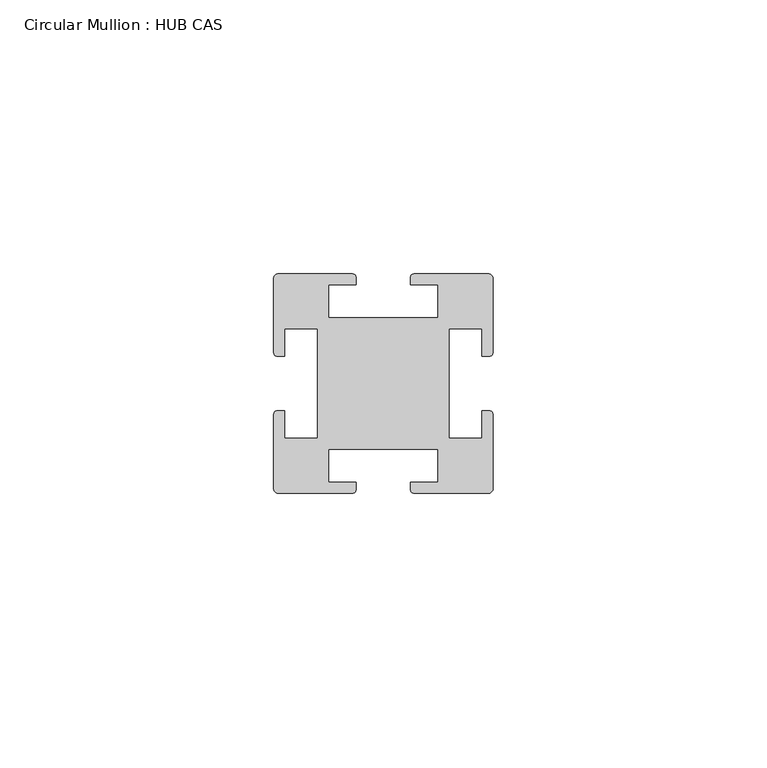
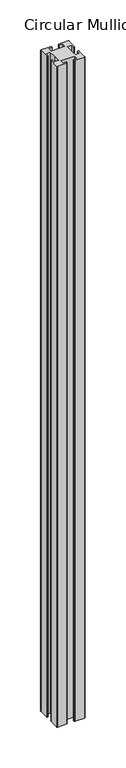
"""IFC4 building model written with IfcOpenShell, lengths in millimetres: member geometry, Circular Mullion : HUB CAS."""

from ifc_helpers import new_model, si_unit, point, frame, frame_2d, origin, place, context, project, spatial, polyline, circle_curve, trimmed, segment, composite_curve, outline, extrude, source, transform, mapped, element, save


def circular_mullion_hub_cas_816afe74(model_context):
    return source(origin(), model_context, "Body", "SweptSolid", [
        extrude(outline(composite_curve([segment(polyline([(5.601076, 2.0892375), (19.298924, 2.0892375)]), True, "CONTINUOUS"), segment(trimmed(circle_curve(frame_2d((19.298924, 1.3892375)), 0.7), [point((19.298924, 2.0892375))], [point((19.998924, 1.3892375))], False, "CARTESIAN"), True, "CONTINUOUS"), segment(polyline([(19.998924, 1.3892375), (19.998924, -12.3107625)]), True, "CONTINUOUS"), segment(trimmed(circle_curve(frame_2d((19.398924, -12.3107625)), 0.6), [point((19.998924, -12.3107625))], [point((19.398924, -12.9107625))], False, "CARTESIAN"), True, "CONTINUOUS"), segment(polyline([(19.398924, -12.9107625), (17.998924, -12.9107625), (17.998924, -7.9107625), (11.998924, -7.9107625), (11.998924, -17.9107625), (11.998924, -27.9107625), (17.998924, -27.9107625), (17.998924, -22.9107625), (19.398924, -22.9107625)]), True, "CONTINUOUS"), segment(trimmed(circle_curve(frame_2d((19.398924, -23.5107625)), 0.6), [point((19.398924, -22.9107625))], [point((19.998924, -23.5107625))], False, "CARTESIAN"), True, "CONTINUOUS"), segment(polyline([(19.998924, -23.5107625), (19.998924, -37.2107625)]), True, "CONTINUOUS"), segment(trimmed(circle_curve(frame_2d((19.298924, -37.2107625)), 0.7), [point((19.998924, -37.2107625))], [point((19.298924, -37.9107625))], False, "CARTESIAN"), True, "CONTINUOUS"), segment(polyline([(19.298924, -37.9107625), (5.601076, -37.9107625)]), True, "CONTINUOUS"), segment(trimmed(circle_curve(frame_2d((5.601076, -37.3107625)), 0.6), [point((5.601076, -37.9107625))], [point((5.001076, -37.3107625))], False, "CARTESIAN"), True, "CONTINUOUS"), segment(polyline([(5.001076, -37.3107625), (5.001076, -35.910257), (9.998924, -35.910257), (9.998924, -29.9107625), (-9.998924, -29.9107625), (-9.998924, -35.910257), (-5.001076, -35.910257), (-5.001076, -37.3107625)]), True, "CONTINUOUS"), segment(trimmed(circle_curve(frame_2d((-5.601076, -37.3107625)), 0.6), [point((-5.001076, -37.3107625))], [point((-5.601076, -37.9107625))], False, "CARTESIAN"), True, "CONTINUOUS"), segment(polyline([(-5.601076, -37.9107625), (-19.298924, -37.9107625)]), True, "CONTINUOUS"), segment(trimmed(circle_curve(frame_2d((-19.298924, -37.2107625)), 0.7), [point((-19.298924, -37.9107625))], [point((-19.998924, -37.2107625))], False, "CARTESIAN"), True, "CONTINUOUS"), segment(polyline([(-19.998924, -37.2107625), (-19.998924, -23.5107625)]), True, "CONTINUOUS"), segment(trimmed(circle_curve(frame_2d((-19.398924, -23.5107625)), 0.6), [point((-19.998924, -23.5107625))], [point((-19.398924, -22.9107625))], False, "CARTESIAN"), True, "CONTINUOUS"), segment(polyline([(-19.398924, -22.9107625), (-17.998924, -22.9107625), (-17.998924, -27.9107625), (-11.998924, -27.9107625), (-11.998924, -17.9107625), (-11.998924, -7.9107625), (-17.998924, -7.9107625), (-17.998924, -12.9107625), (-19.398924, -12.9107625)]), True, "CONTINUOUS"), segment(trimmed(circle_curve(frame_2d((-19.398924, -12.3107625)), 0.6), [point((-19.398924, -12.9107625))], [point((-19.998924, -12.3107625))], False, "CARTESIAN"), True, "CONTINUOUS"), segment(polyline([(-19.998924, -12.3107625), (-19.998924, 1.3892375)]), True, "CONTINUOUS"), segment(trimmed(circle_curve(frame_2d((-19.298924, 1.3892375)), 0.7), [point((-19.998924, 1.3892375))], [point((-19.298924, 2.0892375))], False, "CARTESIAN"), True, "CONTINUOUS"), segment(polyline([(-19.298924, 2.0892375), (-5.601076, 2.0892375)]), True, "CONTINUOUS"), segment(trimmed(circle_curve(frame_2d((-5.601076, 1.4892375)), 0.6), [point((-5.601076, 2.0892375))], [point((-5.001076, 1.4892375))], False, "CARTESIAN"), True, "CONTINUOUS"), segment(polyline([(-5.001076, 1.4892375), (-5.001076, 0.0887321), (-9.998924, 0.0887321), (-9.998924, -5.9107625), (9.998924, -5.9107625), (9.998924, 0.0887321), (5.001076, 0.0887321), (5.001076, 1.4892375)]), True, "CONTINUOUS"), segment(trimmed(circle_curve(frame_2d((5.601076, 1.4892375)), 0.6), [point((5.001076, 1.4892375))], [point((5.601076, 2.0892375))], False, "CARTESIAN"), True, "CONTINUOUS")], self_intersect=False)), frame((0.0, 0.0, -990.0), z_axis=(0.0, 0.0, 1.0), x_axis=(1.0, 0.0, 0.0)), (0.0, 0.0, 1.0), 990.0),
    ])


if __name__ == "__main__":
    model = new_model("IFC4")
    model_context = context("Model", 3, world=origin())
    ifc_project = project(units=[si_unit("LENGTHUNIT", "METRE", prefix="MILLI")], contexts=[model_context])
    site = spatial("IfcSite", under=ifc_project)
    building = spatial("IfcBuilding", under=site)
    placement = place(None, origin())
    circular_mullion_hub_cas_shape = circular_mullion_hub_cas_816afe74(model_context)
    element("IfcMember", 1, ObjectType="Circular Mullion : HUB CAS", at=placement, inside=building, context=model_context, shape_type="MappedRepresentation", body=[
        mapped(circular_mullion_hub_cas_shape, transform((0.0, 0.0, 0.0), x_axis=(1.0, 0.0, 0.0), y_axis=(0.0, 1.0, 0.0), z_axis=(0.0, 0.0, 1.0))),
    ])
    save(model, "model.ifc")
